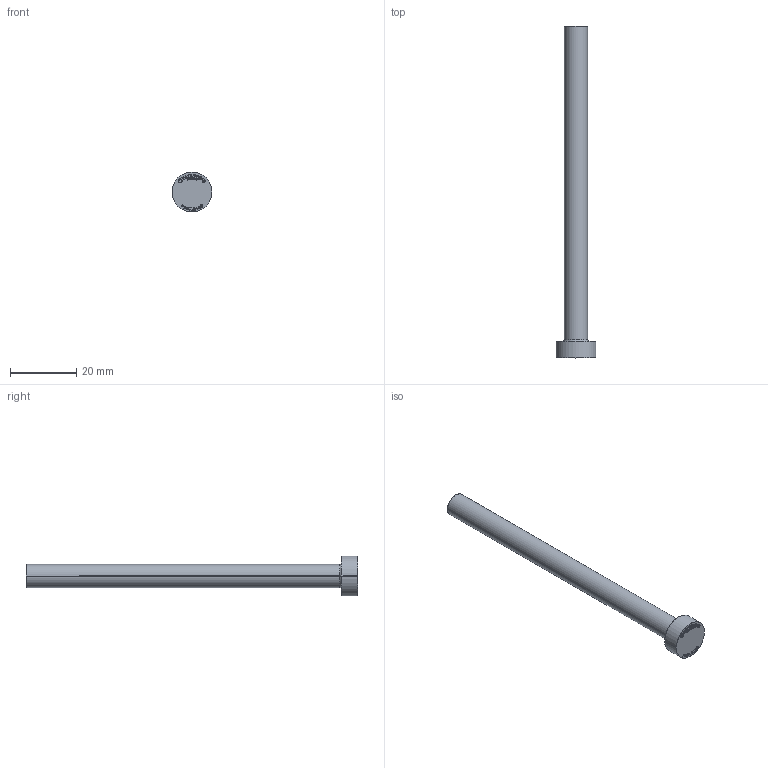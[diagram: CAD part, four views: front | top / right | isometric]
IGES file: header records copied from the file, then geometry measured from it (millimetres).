
Start section: SolidWorks IGES file using analytic representation for surfaces
Global section: file name: C:\Users\User\Downloads\Matripeça 31-08 tar\PB - PINO EXTRATOR TIPO _B_ (CATÁLOGO)\PB07,0\PB07,0100.IGS; native system: SolidWorks 2024; preprocessor: SolidWorks 2024; author: User; date: 260901.144502; units: millimetre
Bounding box: 12 x 100 x 12 mm (x, y, z)
Surface area: 2508.6 mm2 (no closed solid volume)
Topology: 0 solids, 0 shells, 388 faces, 3603 edges, 3603 vertices
Faces by surface type: bspline 374, revolution 14
